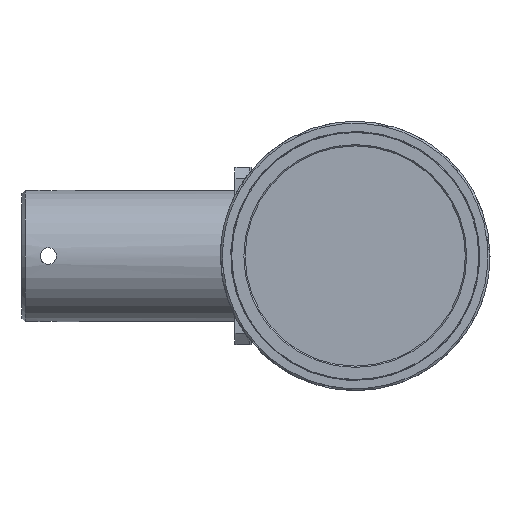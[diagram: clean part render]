
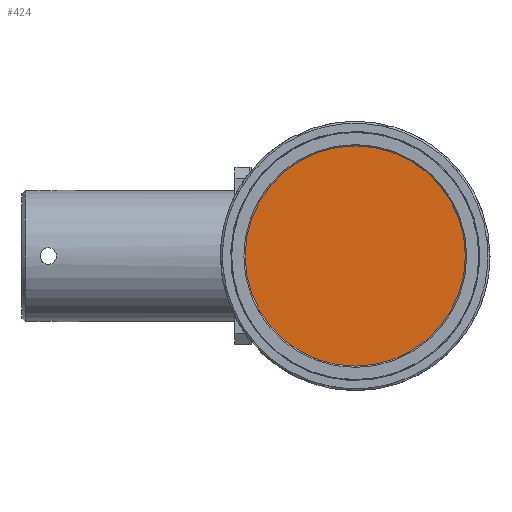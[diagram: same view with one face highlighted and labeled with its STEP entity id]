
A CAD part, left-side view. The second image highlights one B-rep face of the part: STEP entity #424.
In plain terms, the highlighted planar face has unit normal (-1, 0, 0).
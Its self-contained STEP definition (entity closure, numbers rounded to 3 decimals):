
#420 = VERTEX_POINT ( 'NONE', #1362 ) ;
#424 = ADVANCED_FACE ( 'NONE', ( #544 ), #8209, .F. ) ;
#544 = FACE_OUTER_BOUND ( 'NONE', #5052, .T. ) ;
#1362 = CARTESIAN_POINT ( 'NONE',  ( 1.165, 0., 16.75 ) ) ;
#1805 = VERTEX_POINT ( 'NONE', #5089 ) ;
#1842 = ORIENTED_EDGE ( 'NONE', *, *, #3677, .T. ) ;
#1844 = DIRECTION ( 'NONE',  ( -1., 0., 0. ) ) ;
#2137 = ORIENTED_EDGE ( 'NONE', *, *, #5802, .T. ) ;
#2845 = DIRECTION ( 'NONE',  ( -1., 0., 0. ) ) ;
#3151 = DIRECTION ( 'NONE',  ( 0., 0., -1. ) ) ;
#3677 = EDGE_CURVE ( 'NONE', #1805, #420, #8332, .T. ) ;
#4510 = CARTESIAN_POINT ( 'NONE',  ( 1.165, 0., 0. ) ) ;
#4700 = CARTESIAN_POINT ( 'NONE',  ( 1.165, 0., 0. ) ) ;
#4855 = CARTESIAN_POINT ( 'NONE',  ( 1.165, 0., 0. ) ) ;
#5052 = EDGE_LOOP ( 'NONE', ( #2137, #1842 ) ) ;
#5089 = CARTESIAN_POINT ( 'NONE',  ( 1.165, 0., -16.75 ) ) ;
#5129 = AXIS2_PLACEMENT_3D ( 'NONE', #4510, #1844, #3151 ) ;
#5308 = DIRECTION ( 'NONE',  ( 0., 0., -1. ) ) ;
#5802 = EDGE_CURVE ( 'NONE', #420, #1805, #7661, .T. ) ;
#6004 = DIRECTION ( 'NONE',  ( 1., 0., 0. ) ) ;
#6142 = AXIS2_PLACEMENT_3D ( 'NONE', #4700, #6004, #5308 ) ;
#6486 = AXIS2_PLACEMENT_3D ( 'NONE', #4855, #2845, #7023 ) ;
#7023 = DIRECTION ( 'NONE',  ( 0., 0., -1. ) ) ;
#7661 = CIRCLE ( 'NONE', #5129, 16.75 ) ;
#8209 = PLANE ( 'NONE',  #6142 ) ;
#8332 = CIRCLE ( 'NONE', #6486, 16.75 ) ;
